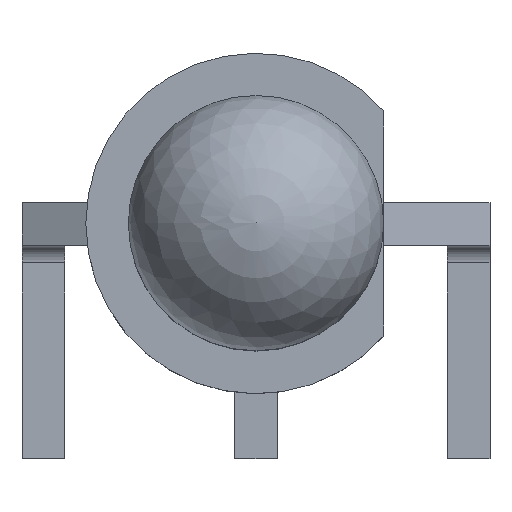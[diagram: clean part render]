
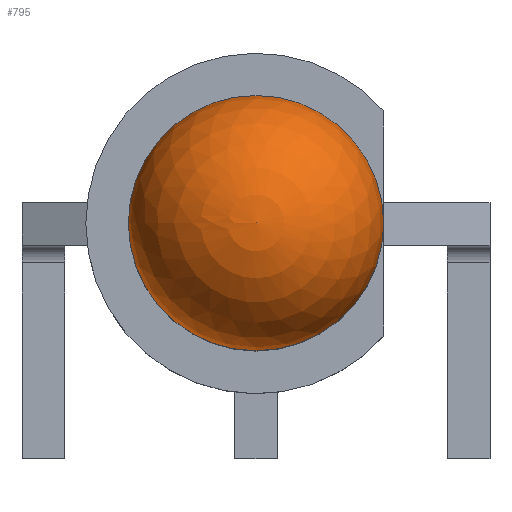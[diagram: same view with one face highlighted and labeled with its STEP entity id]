
A CAD part, top view. The second image highlights one B-rep face of the part: STEP entity #795.
In plain terms, the highlighted spherical face has radius 1.5 mm.
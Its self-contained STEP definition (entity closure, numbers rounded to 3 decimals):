
#17=SPHERICAL_SURFACE('',#863,1.5);
#71=FACE_OUTER_BOUND('',#118,.T.);
#118=EDGE_LOOP('',(#571,#572,#573));
#352=CIRCLE('',#864,1.5);
#353=CIRCLE('',#865,1.5);
#374=VERTEX_POINT('',#1173);
#375=VERTEX_POINT('',#1175);
#452=EDGE_CURVE('',#374,#374,#352,.T.);
#453=EDGE_CURVE('',#375,#374,#353,.T.);
#571=ORIENTED_EDGE('',*,*,#452,.T.);
#572=ORIENTED_EDGE('',*,*,#453,.F.);
#573=ORIENTED_EDGE('',*,*,#453,.T.);
#795=ADVANCED_FACE('',(#71),#17,.T.);
#863=AXIS2_PLACEMENT_3D('',#1172,#943,#944);
#864=AXIS2_PLACEMENT_3D('',#1174,#945,#946);
#865=AXIS2_PLACEMENT_3D('',#1176,#947,#948);
#943=DIRECTION('center_axis',(0.,0.,1.));
#944=DIRECTION('ref_axis',(1.,0.,0.));
#945=DIRECTION('center_axis',(0.,0.,1.));
#946=DIRECTION('ref_axis',(1.,0.,0.));
#947=DIRECTION('center_axis',(0.,-1.,0.));
#948=DIRECTION('ref_axis',(-1.,0.,0.));
#1172=CARTESIAN_POINT('Origin',(0.,0.,2.5));
#1173=CARTESIAN_POINT('',(-1.5,0.,2.5));
#1174=CARTESIAN_POINT('Origin',(0.,0.,2.5));
#1175=CARTESIAN_POINT('',(0.,0.,4.));
#1176=CARTESIAN_POINT('Origin',(0.,0.,2.5));
